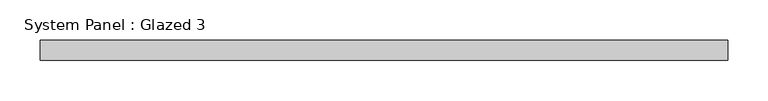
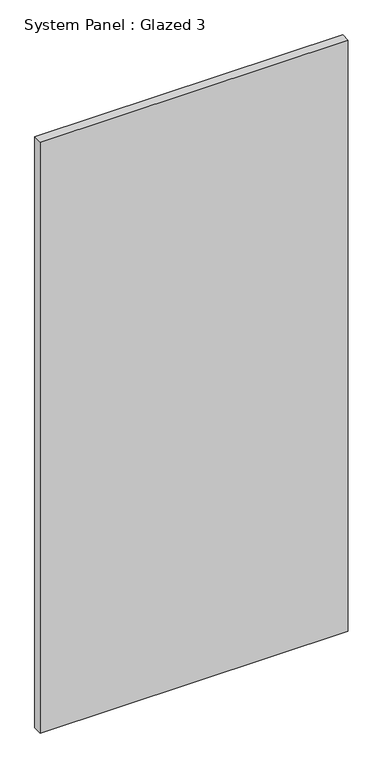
"""IFC4 building model written with IfcOpenShell, lengths in millimetres: plate geometry, System Panel : Glazed 3."""

from ifc_helpers import new_model, si_unit, origin, origin_with_axes, place, context, project, spatial, polyline, outline, extrude, source, transform, mapped, element, save


def system_panel_glazed_3_1aa751b1(model_context):
    return source(origin(), model_context, "Body", "SweptSolid", [
        extrude(outline(polyline([(426.5459532, -12.5), (-426.5459532, -12.5), (-426.5459532, 12.5), (426.5459532, 12.5), (426.5459532, -12.5)])), origin_with_axes(), (0.0, 0.0, 1.0), 1729.8595284),
    ])


if __name__ == "__main__":
    model = new_model("IFC4")
    model_context = context("Model", 3, world=origin())
    ifc_project = project(units=[si_unit("LENGTHUNIT", "METRE", prefix="MILLI")], contexts=[model_context])
    site = spatial("IfcSite", under=ifc_project)
    building = spatial("IfcBuilding", under=site)
    placement = place(None, origin())
    system_panel_glazed_3_shape = system_panel_glazed_3_1aa751b1(model_context)
    element("IfcPlate", 1, ObjectType="System Panel : Glazed 3", at=placement, inside=building, context=model_context, shape_type="MappedRepresentation", body=[
        mapped(system_panel_glazed_3_shape, transform((0.0, 0.0, 0.0), x_axis=(1.0, 0.0, 0.0), y_axis=(0.0, 1.0, 0.0), z_axis=(0.0, 0.0, 1.0))),
    ])
    save(model, "model.ifc")
